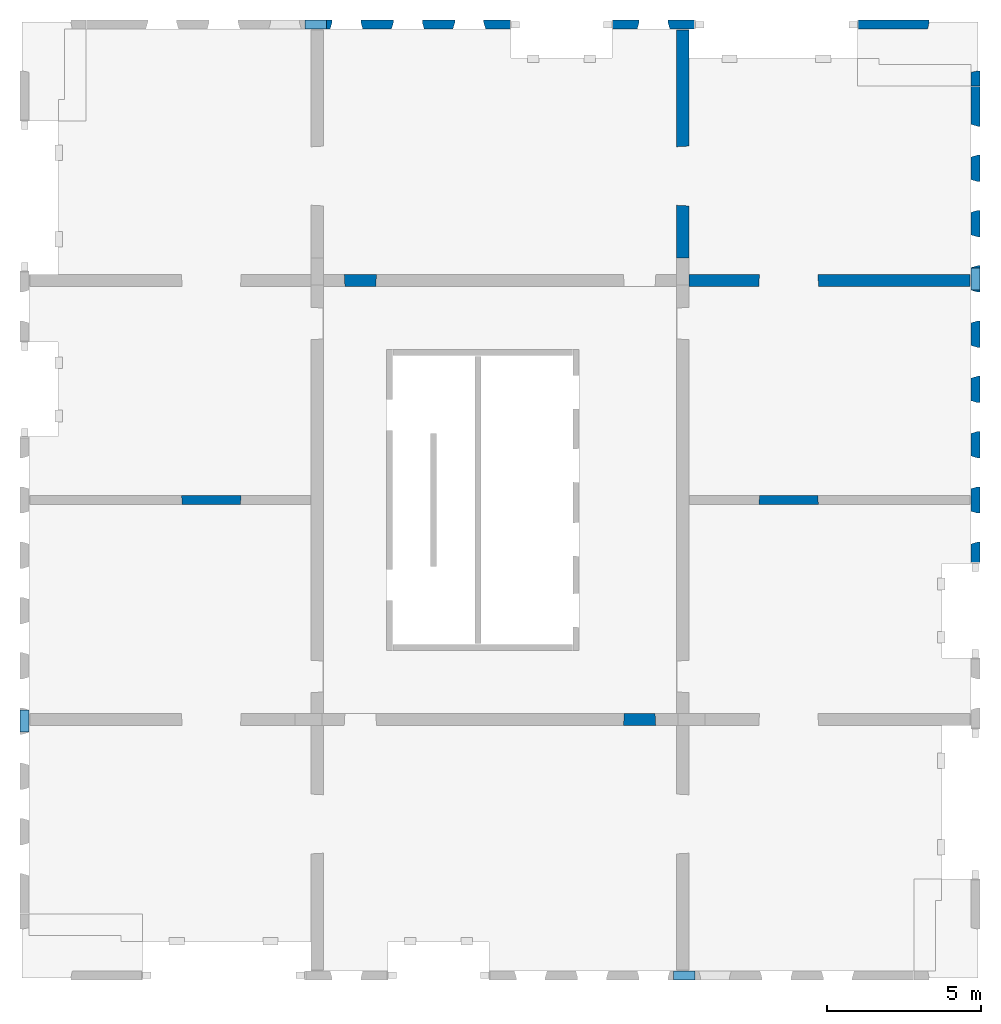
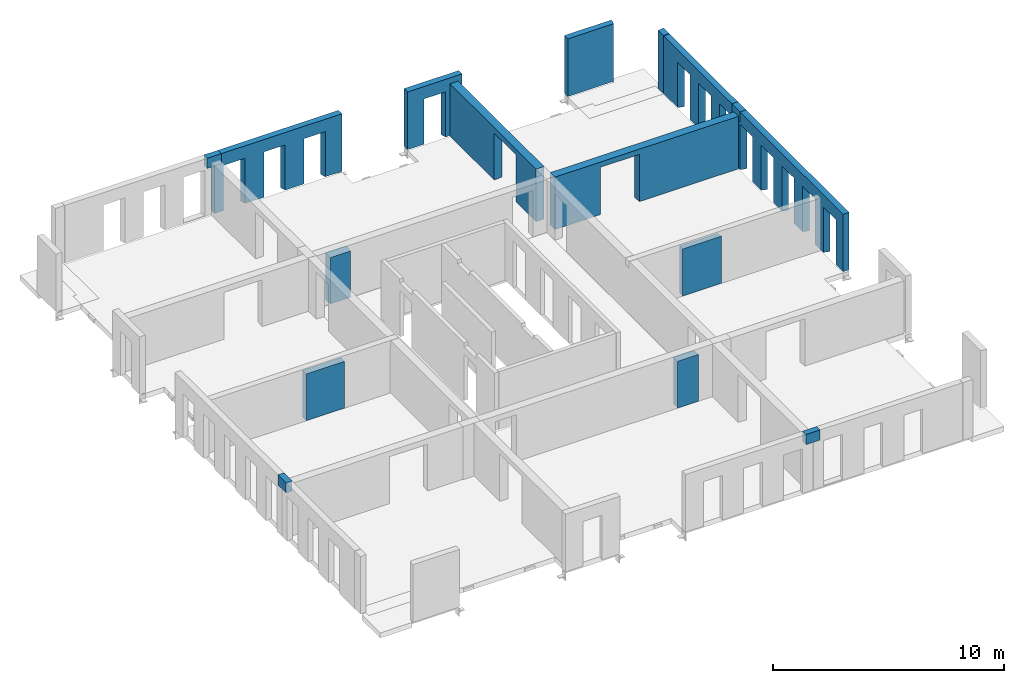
# One storey, part 4 of 4: 16 walls, 19 openings.
"""IFC2X3 building model written with IfcOpenShell, lengths in millimetres."""

from ifc_helpers import new_model, entity, si_unit, converted_unit, derived_unit, direction, frame, frame_2d, origin, place, context, subcontext, project, spatial, rectangle, extrude, faceted_brep, material, layer, layer_set, layer_usage, type_object, element, save


model = new_model("IFC2X3")

# Units and contexts
model_context = context("Model", 3, precision=0.01, world=origin(), true_north=direction((6.12303176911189e-17, 1.0)))
body_context = subcontext(model_context, "Body", "Model", "MODEL_VIEW")
ifc_project = project(units=[si_unit("LENGTHUNIT", "METRE", prefix="MILLI"), si_unit("AREAUNIT", "SQUARE_METRE"), si_unit("VOLUMEUNIT", "CUBIC_METRE"), converted_unit("PLANEANGLEUNIT", "DEGREE", entity("IfcRatioMeasure", 0.0174532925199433), si_unit("PLANEANGLEUNIT", "RADIAN"), dimensions=[0, 0, 0, 0, 0, 0, 0]), si_unit("MASSUNIT", "GRAM", prefix="KILO"), derived_unit("MASSDENSITYUNIT", [(si_unit("MASSUNIT", "GRAM", prefix="KILO"), 1), (si_unit("LENGTHUNIT", "METRE"), -3)]), si_unit("TIMEUNIT", "SECOND"), si_unit("FREQUENCYUNIT", "HERTZ"), si_unit("THERMODYNAMICTEMPERATUREUNIT", "DEGREE_CELSIUS"), derived_unit("THERMALTRANSMITTANCEUNIT", [(si_unit("MASSUNIT", "GRAM", prefix="KILO"), 1), (si_unit("THERMODYNAMICTEMPERATUREUNIT", "KELVIN"), -1), (si_unit("TIMEUNIT", "SECOND"), -3)]), derived_unit("VOLUMETRICFLOWRATEUNIT", [(si_unit("LENGTHUNIT", "METRE"), 3), (si_unit("TIMEUNIT", "SECOND"), -1)]), si_unit("ELECTRICCURRENTUNIT", "AMPERE"), si_unit("ELECTRICVOLTAGEUNIT", "VOLT"), si_unit("POWERUNIT", "WATT"), si_unit("FORCEUNIT", "NEWTON", prefix="KILO"), si_unit("ILLUMINANCEUNIT", "LUX"), si_unit("LUMINOUSFLUXUNIT", "LUMEN"), si_unit("LUMINOUSINTENSITYUNIT", "CANDELA"), derived_unit("USERDEFINED", [(si_unit("MASSUNIT", "GRAM", prefix="KILO"), -1), (si_unit("LENGTHUNIT", "METRE"), -2), (si_unit("TIMEUNIT", "SECOND"), 3), (si_unit("LUMINOUSFLUXUNIT", "LUMEN"), 1)]), derived_unit("LINEARVELOCITYUNIT", [(si_unit("LENGTHUNIT", "METRE"), 1), (si_unit("TIMEUNIT", "SECOND"), -1)]), si_unit("PRESSUREUNIT", "PASCAL"), derived_unit("USERDEFINED", [(si_unit("LENGTHUNIT", "METRE"), -2), (si_unit("MASSUNIT", "GRAM", prefix="KILO"), 1), (si_unit("TIMEUNIT", "SECOND"), -2)])], contexts=[model_context])

# Site, building, storey
site_placement = place(None, origin())
site = spatial("IfcSite", under=ifc_project, at=site_placement, Name="Default", CompositionType="ELEMENT")
building_placement = place(site_placement, origin())
building = spatial("IfcBuilding", under=site, at=building_placement, Name="niet gebruiken", CompositionType="ELEMENT")
storey_placement = place(building_placement, frame((0.0, 0.0, 76140.0)))
storey = spatial("IfcBuildingStorey", under=building, at=storey_placement, Name="24 vierentwintigste verdieping", CompositionType="ELEMENT", Elevation=76140.0000000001)

# Walls
ifc_material_1 = material(Name="NLRS_f2_beton ihwg")
ifc_layer_1 = layer(ifc_material_1, 300.0)
ifc_layer_set_1 = layer_set([ifc_layer_1], Name="Basic Wall:NLRS_21.21_WA_beton ihwg d=300_gen")
ifc_layer_usage_1 = layer_usage(ifc_layer_set_1, "AXIS2", "NEGATIVE", 150.0)
wall_type_1 = type_object("IfcWallType", Name="Basic Wall:NLRS_21.21_WA_beton ihwg d=300_gen", PredefinedType="STANDARD", material=ifc_layer_set_1)
wall_1_placement = place(storey_placement, frame((148105.0, 2020.0, 2455.0), z_axis=(0.0, 0.0, 1.0), x_axis=(-1.0, 0.0, 0.0)))
element("IfcWallStandardCase", 1, at=wall_1_placement, inside=storey, type_object=wall_type_1, material=ifc_layer_usage_1, Name="Basic Wall:NLRS_21.21_WA_beton ihwg d=300_gen", ObjectType="Basic Wall:NLRS_21.21_WA_beton ihwg d=300_gen", context=body_context, shape_type="SweptSolid", body=[
    extrude(rectangle(XDim=710.000000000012, YDim=300.0, at=frame_2d((355.000000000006, -1.4210854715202e-14), x_axis=(-1.0, 0.0))), origin(), (0.0, 0.0, 1.0), 535.0),
])
ifc_layer_usage_2 = layer_usage(ifc_layer_set_1, "AXIS2", "NEGATIVE", 150.0)
wall_2_placement = place(storey_placement, frame((135395.0, 32980.0, 2455.0)))
element("IfcWallStandardCase", 2, at=wall_2_placement, inside=storey, type_object=wall_type_1, material=ifc_layer_usage_2, Name="Basic Wall:NLRS_21.21_WA_beton ihwg d=300_gen", ObjectType="Basic Wall:NLRS_21.21_WA_beton ihwg d=300_gen", context=body_context, shape_type="SweptSolid", body=[
    extrude(rectangle(XDim=710.000000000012, YDim=300.000000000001, at=frame_2d((355.000000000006, 0.0), x_axis=(-1.0, 0.0))), origin(), (0.0, 0.0, 1.0), 535.0),
])
ifc_layer_usage_3 = layer_usage(ifc_layer_set_1, "AXIS2", "NEGATIVE", 150.0)
wall_3_placement = place(storey_placement, frame((157230.0, 25055.0, 2455.0), z_axis=(0.0, 0.0, 1.0), x_axis=(0.0, -1.0, 0.0)))
element("IfcWallStandardCase", 3, at=wall_3_placement, inside=storey, type_object=wall_type_1, material=ifc_layer_usage_3, Name="Basic Wall:NLRS_21.21_WA_beton ihwg d=300_gen", ObjectType="Basic Wall:NLRS_21.21_WA_beton ihwg d=300_gen", context=body_context, shape_type="SweptSolid", body=[
    extrude(rectangle(XDim=710.000000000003, YDim=300.000000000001, at=frame_2d((355.000000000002, 9.9475983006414e-13), x_axis=(-1.0, 0.0))), origin(), (0.0, 0.0, 1.0), 535.0),
])
ifc_layer_usage_4 = layer_usage(ifc_layer_set_1, "AXIS2", "NEGATIVE", 150.0)
wall_4_placement = place(storey_placement, frame((126270.0, 9945.0, 2455.0), z_axis=(0.0, 0.0, 1.0), x_axis=(0.0, 1.0, 0.0)))
element("IfcWallStandardCase", 4, at=wall_4_placement, inside=storey, type_object=wall_type_1, material=ifc_layer_usage_4, Name="Basic Wall:NLRS_21.21_WA_beton ihwg d=300_gen", ObjectType="Basic Wall:NLRS_21.21_WA_beton ihwg d=300_gen", context=body_context, shape_type="SweptSolid", body=[
    extrude(rectangle(XDim=710.000000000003, YDim=300.000000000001, at=frame_2d((355.000000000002, 0.0), x_axis=(-1.0, 0.0))), origin(), (0.0, 0.0, 1.0), 535.0),
])

# Wall, opening
ifc_material_2 = material(Name="NLRS_f2_beton prefab")
ifc_layer_2 = layer(ifc_material_2, 400.0)
ifc_layer_set_2 = layer_set([ifc_layer_2], Name="Basic Wall:NLRS_22.21_WA_beton prefab d=400_gen")
ifc_layer_usage_5 = layer_usage(ifc_layer_set_2, "AXIS2", "NEGATIVE", 200.0)
wall_type_2 = type_object("IfcWallType", Name="Basic Wall:NLRS_22.21_WA_beton prefab d=400_gen", PredefinedType="STANDARD", material=ifc_layer_set_2)
wall_5_placement = place(storey_placement, frame((157060.0, 24650.0, -70.0), z_axis=(0.0, 0.0, 1.0), x_axis=(-1.0, 0.0, 0.0)))
wall_5 = element("IfcWallStandardCase", 5, at=wall_5_placement, inside=storey, type_object=wall_type_2, material=ifc_layer_usage_5, Name="Basic Wall:NLRS_22.21_WA_beton prefab d=400_gen", ObjectType="Basic Wall:NLRS_22.21_WA_beton prefab d=400_gen", context=body_context, shape_type="SweptSolid", body=[
    extrude(rectangle(XDim=9160.00000000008, YDim=399.999999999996, at=frame_2d((4580.00000000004, -9.2370555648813e-13), x_axis=(-1.0, 0.0))), origin(), (0.0, 0.0, 1.0), 2770.00000000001),
])
opening_1_placement = place(wall_5_placement, frame((6884.0, 200.0, 0.0)))
element("IfcOpeningElement", 6, at=opening_1_placement, cuts=wall_5, Name="Basic Wall:NLRS_22.21_WA_beton prefab d=400_gen", ObjectType="Opening", context=body_context, shape_type="Brep", body=[
    faceted_brep([(-24.0, -400.0, 2470.0), (-1924.0, -400.0, 2470.0), (-1924.0, -400.0, 0.0), (-24.0, -400.0, 0.0), (0.0, 0.0, 2494.0), (0.0, 0.0, 0.0), (-1948.0, 0.0, 0.0), (-1948.0, 0.0, 2494.0)], [[[0, 1, 2, 3]], [[4, 5, 6, 7]], [[4, 7, 1, 0]], [[7, 6, 2, 1]], [[6, 5, 3, 2]], [[5, 4, 0, 3]]]),
])

ifc_layer_usage_6 = layer_usage(ifc_layer_set_2, "AXIS2", "NEGATIVE", 200.0)
wall_6_placement = place(storey_placement, frame((147700.0, 25380.0, -70.0), z_axis=(0.0, 0.0, 1.0), x_axis=(0.0, 1.0, 0.0)))
wall_6 = element("IfcWallStandardCase", 7, at=wall_6_placement, inside=storey, type_object=wall_type_2, material=ifc_layer_usage_6, Name="Basic Wall:NLRS_22.21_WA_beton prefab d=400_gen", ObjectType="Basic Wall:NLRS_22.21_WA_beton prefab d=400_gen", context=body_context, shape_type="SweptSolid", body=[
    extrude(rectangle(XDim=7429.99999999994, YDim=400.000000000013, at=frame_2d((3714.99999999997, 7.14805992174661e-12), x_axis=(-1.0, 0.0))), origin(), (0.0, 0.0, 1.0), 2770.00000000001),
])
opening_2_placement = place(wall_6_placement, frame((1696.0, 200.0, 0.0)))
element("IfcOpeningElement", 8, at=opening_2_placement, cuts=wall_6, Name="Basic Wall:NLRS_22.21_WA_beton prefab d=400_gen", ObjectType="Opening", context=body_context, shape_type="Brep", body=[
    faceted_brep([(1924.0, 0.0, 2470.0), (1924.0, 0.0, 0.0), (24.0, 0.0, 0.0), (24.0, 0.0, 2470.0), (1948.0, -400.0, 2494.0), (0.0, -400.0, 2494.0), (0.0, -400.0, 0.0), (1948.0, -400.0, 0.0)], [[[0, 1, 2, 3]], [[4, 5, 6, 7]], [[4, 0, 3, 5]], [[5, 3, 2, 6]], [[6, 2, 1, 7]], [[7, 1, 0, 4]]]),
])

ifc_layer_3 = layer(ifc_material_2, 300.0)
ifc_layer_set_3 = layer_set([ifc_layer_3], Name="Basic Wall:NLRS_21.21_WA_beton prefab d=300/320_gen")
ifc_layer_usage_7 = layer_usage(ifc_layer_set_3, "AXIS2", "NEGATIVE", 150.0)
wall_type_3 = type_object("IfcWallType", Name="Basic Wall:NLRS_21.21_WA_beton prefab d=300/320_gen", PredefinedType="STANDARD", material=ifc_layer_set_3)
wall_7_placement = place(storey_placement, frame((145390.0, 32980.0, -50.0)))
wall_7 = element("IfcWallStandardCase", 9, at=wall_7_placement, inside=storey, type_object=wall_type_3, material=ifc_layer_usage_7, Name="Basic Wall:NLRS_21.21_WA_beton prefab d=300/320_gen", ObjectType="Basic Wall:NLRS_21.21_WA_beton prefab d=300/320_gen", context=body_context, shape_type="SweptSolid", body=[
    extrude(rectangle(XDim=2720.00000000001, YDim=300.000000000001, at=frame_2d((1360.0, -4.54747350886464e-13), x_axis=(-1.0, 0.0))), origin(), (0.0, 0.0, 1.0), 3040.0),
])
opening_3_placement = place(wall_7_placement, frame((825.0, -150.0, -20.0)))
element("IfcOpeningElement", 10, at=opening_3_placement, cuts=wall_7, Name="Basic Wall:NLRS_21.21_WA_beton prefab d=300/320_gen", ObjectType="Opening", context=body_context, shape_type="Brep", body=[
    faceted_brep([(0.0, 0.0, 2405.0), (0.0, 0.0, 0.0), (1070.0, 0.0, 0.0), (1070.0, 0.0, 2405.0), (1005.0, 219.0, 2370.0), (65.0, 219.0, 2370.0), (1005.0, 219.0, 0.0), (65.0, 219.0, 0.0), (65.0, 300.0, 0.0), (1005.0, 300.0, 0.0), (65.0, 300.0, 2370.0), (1005.0, 300.0, 2370.0)], [[[0, 1, 2, 3]], [[3, 4, 5, 0]], [[2, 6, 4, 3]], [[1, 7, 8, 9, 6, 2]], [[0, 5, 7, 1]], [[10, 11, 9, 8]], [[10, 5, 4, 11]], [[11, 4, 6, 9]], [[8, 7, 5, 10]]]),
])

# Wall, openings
ifc_layer_usage_8 = layer_usage(ifc_layer_set_3, "AXIS2", "NEGATIVE", 150.0)
wall_8_placement = place(storey_placement, frame((157230.0, 30960.0, -50.0), z_axis=(0.0, 0.0, 1.0), x_axis=(0.0, -1.0, 0.0)))
wall_8 = element("IfcWallStandardCase", 11, at=wall_8_placement, inside=storey, type_object=wall_type_3, material=ifc_layer_usage_8, Name="Basic Wall:NLRS_21.21_WA_beton prefab d=300/320_gen", ObjectType="Basic Wall:NLRS_21.21_WA_beton prefab d=300/320_gen", context=body_context, shape_type="SweptSolid", body=[
    extrude(rectangle(XDim=6249.99999999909, YDim=300.000000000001, at=frame_2d((3124.99999999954, -8.61177795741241e-12), x_axis=(-1.0, 0.0))), origin(), (0.0, 0.0, 1.0), 3039.99999999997),
])
opening_4_placement = place(wall_8_placement, frame((2295.0, -150.0, -20.0)))
element("IfcOpeningElement", 12, at=opening_4_placement, cuts=wall_8, Name="Basic Wall:NLRS_21.21_WA_beton prefab d=300/320_gen", ObjectType="Opening", context=body_context, shape_type="Brep", body=[
    faceted_brep([(-1070.0, 0.0, 2405.0), (-1070.0, 0.0, 0.0), (0.0, 0.0, 0.0), (0.0, 0.0, 2405.0), (-65.0, 219.0, 2370.0), (-1005.0, 219.0, 2370.0), (-65.0, 219.0, 0.0), (-1005.0, 219.0, 0.0), (-1005.0, 300.0, 0.0), (-65.0, 300.0, 0.0), (-1005.0, 300.0, 2370.0), (-65.0, 300.0, 2370.0)], [[[0, 1, 2, 3]], [[3, 4, 5, 0]], [[2, 6, 4, 3]], [[1, 7, 8, 9, 6, 2]], [[0, 5, 7, 1]], [[10, 11, 9, 8]], [[10, 5, 4, 11]], [[11, 4, 6, 9]], [[8, 7, 5, 10]]]),
])
opening_5_placement = place(wall_8_placement, frame((4095.0, -150.0, -20.0)))
element("IfcOpeningElement", 13, at=opening_5_placement, cuts=wall_8, Name="Basic Wall:NLRS_21.21_WA_beton prefab d=300/320_gen", ObjectType="Opening", context=body_context, shape_type="Brep", body=[
    faceted_brep([(-1070.0, 0.0, 2405.0), (-1070.0, 0.0, 0.0), (0.0, 0.0, 0.0), (0.0, 0.0, 2405.0), (-65.0, 219.0, 2370.0), (-1005.0, 219.0, 2370.0), (-65.0, 219.0, 0.0), (-1005.0, 219.0, 0.0), (-1005.0, 300.0, 0.0), (-65.0, 300.0, 0.0), (-1005.0, 300.0, 2370.0), (-65.0, 300.0, 2370.0)], [[[0, 1, 2, 3]], [[3, 4, 5, 0]], [[2, 6, 4, 3]], [[1, 7, 8, 9, 6, 2]], [[0, 5, 7, 1]], [[10, 11, 9, 8]], [[10, 5, 4, 11]], [[11, 4, 6, 9]], [[8, 7, 5, 10]]]),
])
opening_6_placement = place(wall_8_placement, frame((5895.0, -150.0, -20.0)))
element("IfcOpeningElement", 14, at=opening_6_placement, cuts=wall_8, Name="Basic Wall:NLRS_21.21_WA_beton prefab d=300/320_gen", ObjectType="Opening", context=body_context, shape_type="Brep", body=[
    faceted_brep([(-1070.0, 0.0, 2405.0), (-1070.0, 0.0, 0.0), (0.0, 0.0, 0.0), (0.0, 0.0, 2405.0), (-65.0, 219.0, 2370.0), (-1005.0, 219.0, 2370.0), (-65.0, 219.0, 0.0), (-1005.0, 219.0, 0.0), (-1005.0, 300.0, 0.0), (-65.0, 300.0, 0.0), (-1005.0, 300.0, 2370.0), (-65.0, 300.0, 2370.0)], [[[0, 1, 2, 3]], [[3, 4, 5, 0]], [[2, 6, 4, 3]], [[1, 7, 8, 9, 6, 2]], [[0, 5, 7, 1]], [[10, 11, 9, 8]], [[10, 5, 4, 11]], [[11, 4, 6, 9]], [[8, 7, 5, 10]]]),
])
opening_7_placement = place(wall_8_placement, origin())
element("IfcOpeningElement", 15, at=opening_7_placement, cuts=wall_8, Name="Basic Wall:NLRS_21.21_WA_beton prefab d=300/320_gen", ObjectType="Opening", context=body_context, shape_type="SweptSolid", body=[
    extrude(rectangle(XDim=534.99999999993, YDim=344.999999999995, at=frame_2d((0.0, -2.17426077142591e-12), x_axis=(1.0, 0.0))), frame((6077.49999999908, 150.0, 2772.5), z_axis=(0.0, -1.0, 0.0), x_axis=(0.0, 0.0, 1.0)), (0.0, 0.0, 1.0), 300.0),
])

# Wall, opening
ifc_layer_usage_9 = layer_usage(ifc_layer_set_3, "AXIS2", "NEGATIVE", 150.0)
wall_9_placement = place(storey_placement, frame((153390.0, 32980.0, -50.0)))
wall_9 = element("IfcWallStandardCase", 16, at=wall_9_placement, inside=storey, type_object=wall_type_3, material=ifc_layer_usage_9, Name="Basic Wall:NLRS_21.21_WA_beton prefab d=300/320_gen", ObjectType="Basic Wall:NLRS_21.21_WA_beton prefab d=300/320_gen", context=body_context, shape_type="SweptSolid", body=[
    extrude(rectangle(XDim=2330.00000000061, YDim=300.000000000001, at=frame_2d((1165.00000000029, -1.29318777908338e-12), x_axis=(-1.0, 0.0))), origin(), (0.0, 0.0, 1.0), 3040.0),
])
opening_8_placement = place(wall_9_placement, frame((2265.0, -250.0, 0.0)))
element("IfcOpeningElement", 17, at=opening_8_placement, cuts=wall_9, Name="Basic Wall:NLRS_21.21_WA_beton prefab d=300/320_gen", ObjectType="Opening", context=body_context, shape_type="Brep", body=[
    faceted_brep([(65.0, 0.0, 3040.0), (65.0, 319.0, 3040.0), (0.0, 0.0, 3040.0), (65.0, 0.0, 0.0), (0.0, 0.0, 0.0), (65.0, 319.0, 0.0)], [[[0, 1, 2]], [[3, 4, 5]], [[2, 4, 3, 0]], [[0, 3, 5, 1]], [[1, 5, 4, 2]]]),
])

ifc_layer_usage_10 = layer_usage(ifc_layer_set_3, "AXIS2", "NEGATIVE", 150.0)
wall_10_placement = place(storey_placement, frame((157230.0, 31470.0, -50.0), z_axis=(0.0, 0.0, 1.0), x_axis=(0.0, -1.0, 0.0)))
wall_10 = element("IfcWallStandardCase", 18, at=wall_10_placement, inside=storey, type_object=wall_type_3, material=ifc_layer_usage_10, Name="Basic Wall:NLRS_21.21_WA_beton prefab d=300/320_gen", ObjectType="Basic Wall:NLRS_21.21_WA_beton prefab d=300/320_gen", context=body_context, shape_type="SweptSolid", body=[
    extrude(rectangle(XDim=489.999999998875, YDim=300.000000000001, at=frame_2d((244.999999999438, -7.8159700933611e-13), x_axis=(-1.0, 0.0))), origin(), (0.0, 0.0, 1.0), 3040.0),
])
opening_9_placement = place(wall_10_placement, frame((65.0, -250.0, 0.0)))
element("IfcOpeningElement", 19, at=opening_9_placement, cuts=wall_10, Name="Basic Wall:NLRS_21.21_WA_beton prefab d=300/320_gen", ObjectType="Opening", context=body_context, shape_type="Brep", body=[
    faceted_brep([(-65.0, 0.0, 3040.0), (0.0, 0.0, 3040.0), (-65.0, 319.0, 3040.0), (-65.0, 0.0, 0.0), (-65.0, 319.0, 0.0), (0.0, 0.0, 0.0)], [[[0, 1, 2]], [[3, 4, 5]], [[1, 0, 3, 5]], [[0, 2, 4, 3]], [[2, 1, 5, 4]]]),
])

# Wall, openings
ifc_layer_usage_11 = layer_usage(ifc_layer_set_3, "AXIS2", "NEGATIVE", 150.0)
wall_11_placement = place(storey_placement, frame((157230.0, 24690.0, -50.0), z_axis=(0.0, 0.0, 1.0), x_axis=(0.0, -1.0, 0.0)))
wall_11 = element("IfcWallStandardCase", 20, at=wall_11_placement, inside=storey, type_object=wall_type_3, material=ifc_layer_usage_11, Name="Basic Wall:NLRS_21.21_WA_beton prefab d=300/320_gen", ObjectType="Basic Wall:NLRS_21.21_WA_beton prefab d=300/320_gen", context=body_context, shape_type="SweptSolid", body=[
    extrude(rectangle(XDim=9250.00000000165, YDim=300.000000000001, at=frame_2d((4625.00000000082, -4.43378667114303e-12), x_axis=(-1.0, 0.0))), origin(), (0.0, 0.0, 1.0), 3040.0),
])
opening_10_placement = place(wall_11_placement, frame((8625.0, -150.0, -20.0)))
element("IfcOpeningElement", 21, at=opening_10_placement, cuts=wall_11, Name="Basic Wall:NLRS_21.21_WA_beton prefab d=300/320_gen", ObjectType="Opening", context=body_context, shape_type="Brep", body=[
    faceted_brep([(-1070.0, 0.0, 2405.0), (-1070.0, 0.0, 0.0), (0.0, 0.0, 0.0), (0.0, 0.0, 2405.0), (-65.0, 219.0, 2370.0), (-1005.0, 219.0, 2370.0), (-65.0, 219.0, 0.0), (-1005.0, 219.0, 0.0), (-1005.0, 300.0, 0.0), (-65.0, 300.0, 0.0), (-1005.0, 300.0, 2370.0), (-65.0, 300.0, 2370.0)], [[[0, 1, 2, 3]], [[3, 4, 5, 0]], [[2, 6, 4, 3]], [[1, 7, 8, 9, 6, 2]], [[0, 5, 7, 1]], [[10, 11, 9, 8]], [[10, 5, 4, 11]], [[11, 4, 6, 9]], [[8, 7, 5, 10]]]),
])
opening_11_placement = place(wall_11_placement, frame((5025.0, -150.0, -20.0)))
element("IfcOpeningElement", 22, at=opening_11_placement, cuts=wall_11, Name="Basic Wall:NLRS_21.21_WA_beton prefab d=300/320_gen", ObjectType="Opening", context=body_context, shape_type="Brep", body=[
    faceted_brep([(-1070.0, 0.0, 2405.0), (-1070.0, 0.0, 0.0), (0.0, 0.0, 0.0), (0.0, 0.0, 2405.0), (-65.0, 219.0, 2370.0), (-1005.0, 219.0, 2370.0), (-65.0, 219.0, 0.0), (-1005.0, 219.0, 0.0), (-1005.0, 300.0, 0.0), (-65.0, 300.0, 0.0), (-1005.0, 300.0, 2370.0), (-65.0, 300.0, 2370.0)], [[[0, 1, 2, 3]], [[3, 4, 5, 0]], [[2, 6, 4, 3]], [[1, 7, 8, 9, 6, 2]], [[0, 5, 7, 1]], [[10, 11, 9, 8]], [[10, 5, 4, 11]], [[11, 4, 6, 9]], [[8, 7, 5, 10]]]),
])
opening_12_placement = place(wall_11_placement, frame((3225.0, -150.0, -20.0)))
element("IfcOpeningElement", 23, at=opening_12_placement, cuts=wall_11, Name="Basic Wall:NLRS_21.21_WA_beton prefab d=300/320_gen", ObjectType="Opening", context=body_context, shape_type="Brep", body=[
    faceted_brep([(-1070.0, 0.0, 2405.0), (-1070.0, 0.0, 0.0), (0.0, 0.0, 0.0), (0.0, 0.0, 2405.0), (-65.0, 219.0, 2370.0), (-1005.0, 219.0, 2370.0), (-65.0, 219.0, 0.0), (-1005.0, 219.0, 0.0), (-1005.0, 300.0, 0.0), (-65.0, 300.0, 0.0), (-1005.0, 300.0, 2370.0), (-65.0, 300.0, 2370.0)], [[[0, 1, 2, 3]], [[3, 4, 5, 0]], [[2, 6, 4, 3]], [[1, 7, 8, 9, 6, 2]], [[0, 5, 7, 1]], [[10, 11, 9, 8]], [[10, 5, 4, 11]], [[11, 4, 6, 9]], [[8, 7, 5, 10]]]),
])
opening_13_placement = place(wall_11_placement, frame((6825.0, -150.0, -20.0)))
element("IfcOpeningElement", 24, at=opening_13_placement, cuts=wall_11, Name="Basic Wall:NLRS_21.21_WA_beton prefab d=300/320_gen", ObjectType="Opening", context=body_context, shape_type="Brep", body=[
    faceted_brep([(-1070.0, 0.0, 2405.0), (-1070.0, 0.0, 0.0), (0.0, 0.0, 0.0), (0.0, 0.0, 2405.0), (-65.0, 219.0, 2370.0), (-1005.0, 219.0, 2370.0), (-65.0, 219.0, 0.0), (-1005.0, 219.0, 0.0), (-1005.0, 300.0, 0.0), (-65.0, 300.0, 0.0), (-1005.0, 300.0, 2370.0), (-65.0, 300.0, 2370.0)], [[[0, 1, 2, 3]], [[3, 4, 5, 0]], [[2, 6, 4, 3]], [[1, 7, 8, 9, 6, 2]], [[0, 5, 7, 1]], [[10, 11, 9, 8]], [[10, 5, 4, 11]], [[11, 4, 6, 9]], [[8, 7, 5, 10]]]),
])
opening_14_placement = place(wall_11_placement, frame((1425.0, -150.0, -20.0)))
element("IfcOpeningElement", 25, at=opening_14_placement, cuts=wall_11, Name="Basic Wall:NLRS_21.21_WA_beton prefab d=300/320_gen", ObjectType="Opening", context=body_context, shape_type="Brep", body=[
    faceted_brep([(0.0, 0.0, 2405.0), (-1070.0, 0.0, 2405.0), (-1070.0, 0.0, 0.0), (0.0, 0.0, 0.0), (-65.0, 219.0, 2370.0), (-1005.0, 219.0, 2370.0), (-1005.0, 219.0, 0.0), (-1005.0, 300.0, 0.0), (-65.0, 300.0, 0.0), (-65.0, 219.0, 0.0), (-65.0, 300.0, 2370.0), (-1005.0, 300.0, 2370.0)], [[[0, 1, 2, 3]], [[1, 0, 4, 5]], [[2, 1, 5, 6]], [[3, 2, 6, 7, 8, 9]], [[0, 3, 9, 4]], [[10, 8, 7, 11]], [[10, 11, 5, 4]], [[11, 7, 6, 5]], [[8, 10, 4, 9]]]),
])
opening_15_placement = place(wall_11_placement, origin())
element("IfcOpeningElement", 26, at=opening_15_placement, cuts=wall_11, Name="Basic Wall:NLRS_21.21_WA_beton prefab d=300/320_gen", ObjectType="Opening", context=body_context, shape_type="SweptSolid", body=[
    extrude(rectangle(XDim=534.999999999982, YDim=345.000000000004, at=frame_2d((-2.1600499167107e-12, -8.66862137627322e-12), x_axis=(0.0, 1.0))), frame((172.5, 150.0, 2772.5), z_axis=(0.0, -1.0, 0.0), x_axis=(-1.0, 0.0, 0.0)), (0.0, 0.0, 1.0), 300.0),
])

ifc_layer_usage_12 = layer_usage(ifc_layer_set_3, "AXIS2", "NEGATIVE", 150.0)
wall_12_placement = place(storey_placement, frame((135760.0, 32980.0, -50.0)))
wall_12 = element("IfcWallStandardCase", 27, at=wall_12_placement, inside=storey, type_object=wall_type_3, material=ifc_layer_usage_12, Name="Basic Wall:NLRS_21.21_WA_beton prefab d=300/320_gen", ObjectType="Basic Wall:NLRS_21.21_WA_beton prefab d=300/320_gen", context=body_context, shape_type="SweptSolid", body=[
    extrude(rectangle(XDim=6350.00000000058, YDim=300.000000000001, at=frame_2d((3175.00000000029, 0.0), x_axis=(-1.0, 0.0))), origin(), (0.0, 0.0, 1.0), 3039.99999999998),
])
opening_16_placement = place(wall_12_placement, frame((455.0, -150.0, -20.0)))
element("IfcOpeningElement", 28, at=opening_16_placement, cuts=wall_12, Name="Basic Wall:NLRS_21.21_WA_beton prefab d=300/320_gen", ObjectType="Opening", context=body_context, shape_type="Brep", body=[
    faceted_brep([(1070.0, 0.0, 2405.0), (0.0, 0.0, 2405.0), (0.0, 0.0, 0.0), (1070.0, 0.0, 0.0), (1005.0, 219.0, 2370.0), (65.0, 219.0, 2370.0), (65.0, 219.0, 0.0), (65.0, 300.0, 0.0), (1005.0, 300.0, 0.0), (1005.0, 219.0, 0.0), (1005.0, 300.0, 2370.0), (65.0, 300.0, 2370.0)], [[[0, 1, 2, 3]], [[1, 0, 4, 5]], [[2, 1, 5, 6]], [[3, 2, 6, 7, 8, 9]], [[0, 3, 9, 4]], [[10, 8, 7, 11]], [[10, 11, 5, 4]], [[11, 7, 6, 5]], [[8, 10, 4, 9]]]),
])
opening_17_placement = place(wall_12_placement, frame((2455.0, -150.0, -20.0)))
element("IfcOpeningElement", 29, at=opening_17_placement, cuts=wall_12, Name="Basic Wall:NLRS_21.21_WA_beton prefab d=300/320_gen", ObjectType="Opening", context=body_context, shape_type="Brep", body=[
    faceted_brep([(1070.0, 0.0, 2405.0), (0.0, 0.0, 2405.0), (0.0, 0.0, 0.0), (1070.0, 0.0, 0.0), (1005.0, 219.0, 2370.0), (65.0, 219.0, 2370.0), (65.0, 219.0, 0.0), (65.0, 300.0, 0.0), (1005.0, 300.0, 0.0), (1005.0, 219.0, 0.0), (1005.0, 300.0, 2370.0), (65.0, 300.0, 2370.0)], [[[0, 1, 2, 3]], [[1, 0, 4, 5]], [[2, 1, 5, 6]], [[3, 2, 6, 7, 8, 9]], [[0, 3, 9, 4]], [[10, 8, 7, 11]], [[10, 11, 5, 4]], [[11, 7, 6, 5]], [[8, 10, 4, 9]]]),
])
opening_18_placement = place(wall_12_placement, frame((4455.0, -150.0, -20.0)))
element("IfcOpeningElement", 30, at=opening_18_placement, cuts=wall_12, Name="Basic Wall:NLRS_21.21_WA_beton prefab d=300/320_gen", ObjectType="Opening", context=body_context, shape_type="Brep", body=[
    faceted_brep([(1070.0, 0.0, 2405.0), (0.0, 0.0, 2405.0), (0.0, 0.0, 0.0), (1070.0, 0.0, 0.0), (1005.0, 219.0, 2370.0), (65.0, 219.0, 2370.0), (65.0, 219.0, 0.0), (65.0, 300.0, 0.0), (1005.0, 300.0, 0.0), (1005.0, 219.0, 0.0), (1005.0, 300.0, 2370.0), (65.0, 300.0, 2370.0)], [[[0, 1, 2, 3]], [[1, 0, 4, 5]], [[2, 1, 5, 6]], [[3, 2, 6, 7, 8, 9]], [[0, 3, 9, 4]], [[10, 8, 7, 11]], [[10, 11, 5, 4]], [[11, 7, 6, 5]], [[8, 10, 4, 9]]]),
])
opening_19_placement = place(wall_12_placement, origin())
element("IfcOpeningElement", 31, at=opening_19_placement, cuts=wall_12, Name="Basic Wall:NLRS_21.21_WA_beton prefab d=300/320_gen", ObjectType="Opening", context=body_context, shape_type="SweptSolid", body=[
    extrude(rectangle(XDim=534.999999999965, YDim=345.000000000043, at=frame_2d((0.0, 0.0), x_axis=(0.0, 1.0))), frame((172.500000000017, 150.0, 2772.5), z_axis=(0.0, -1.0, 0.0), x_axis=(-1.0, 0.0, 0.0)), (0.0, 0.0, 1.0), 300.0),
])

# Walls
ifc_material_3 = material(Name="NLRS_f2_beton prefab dichtstorten")
wall_type_4 = type_object("IfcWallType", Name="Parametric Wall:NLRS_22.21_WA_beton prefab d=500 1900x2470_gen", PredefinedType="NOTDEFINED", material=ifc_material_3)
wall_13_placement = place(storey_placement, frame((131382.0, 17350.0, -70.0)))
element("IfcWall", 32, at=wall_13_placement, inside=storey, type_object=wall_type_4, material=ifc_material_3, Name="Parametric Wall:NLRS_22.21_WA_beton prefab d=500 1900x2470_gen", ObjectType="Parametric Wall:NLRS_22.21_WA_beton prefab d=500 1900x2470_gen", context=body_context, shape_type="Brep", body=[
    faceted_brep([(1936.0, 300.0, 2488.0), (1936.0, 300.0, 0.0), (0.0, 300.0, 0.0), (0.0, 300.0, 2488.0), (1918.0, 0.0, 2470.0), (18.0, 0.0, 2470.0), (18.0, 0.0, 0.0), (1918.0, 0.0, 0.0)], [[[0, 1, 2, 3]], [[4, 5, 6, 7]], [[4, 7, 1, 0]], [[7, 6, 2, 1]], [[6, 5, 3, 2]], [[5, 4, 0, 3]]]),
])
wall_14_placement = place(storey_placement, frame((150182.0, 17350.0, -70.0)))
element("IfcWall", 33, at=wall_14_placement, inside=storey, type_object=wall_type_4, material=ifc_material_3, Name="Parametric Wall:NLRS_22.21_WA_beton prefab d=500 1900x2470_gen", ObjectType="Parametric Wall:NLRS_22.21_WA_beton prefab d=500 1900x2470_gen", context=body_context, shape_type="Brep", body=[
    faceted_brep([(0.0, 0.0, 2488.0), (0.0, 0.0, 0.0), (1936.0, 0.0, 0.0), (1936.0, 0.0, 2488.0), (18.0, 300.0, 2470.0), (1918.0, 300.0, 2470.0), (1918.0, 300.0, 0.0), (18.0, 300.0, 0.0)], [[[0, 1, 2, 3]], [[4, 5, 6, 7]], [[4, 7, 1, 0]], [[7, 6, 2, 1]], [[6, 5, 3, 2]], [[5, 4, 0, 3]]]),
])
wall_type_5 = type_object("IfcWallType", Name="Parametric Wall:NLRS_22.21_WA_beton prefab d=500 1006x2448_gen", PredefinedType="NOTDEFINED", material=ifc_material_3)
wall_15_placement = place(storey_placement, frame((145770.0, 10150.0, -70.0)))
element("IfcWall", 34, at=wall_15_placement, inside=storey, type_object=wall_type_5, material=ifc_material_3, Name="Parametric Wall:NLRS_22.21_WA_beton prefab d=500 1006x2448_gen", ObjectType="Parametric Wall:NLRS_22.21_WA_beton prefab d=500 1006x2448_gen", context=body_context, shape_type="Brep", body=[
    faceted_brep([(0.0, 0.0, 2472.0), (0.0, 0.0, 0.0), (1054.0, 0.0, 0.0), (1054.0, 0.0, 2472.0), (24.0, 400.0, 2448.0), (1030.0, 400.0, 2448.0), (1030.0, 400.0, 0.0), (24.0, 400.0, 0.0)], [[[0, 1, 2, 3]], [[4, 5, 6, 7]], [[4, 7, 1, 0]], [[7, 6, 2, 1]], [[6, 5, 3, 2]], [[5, 4, 0, 3]]]),
])
wall_16_placement = place(storey_placement, frame((136676.0, 24450.0, -70.0)))
element("IfcWall", 35, at=wall_16_placement, inside=storey, type_object=wall_type_5, material=ifc_material_3, Name="Parametric Wall:NLRS_22.21_WA_beton prefab d=500 1006x2448_gen", ObjectType="Parametric Wall:NLRS_22.21_WA_beton prefab d=500 1006x2448_gen", context=body_context, shape_type="Brep", body=[
    faceted_brep([(1054.0, 400.0, 2472.0), (1054.0, 400.0, 0.0), (0.0, 400.0, 0.0), (0.0, 400.0, 2472.0), (1030.0, 0.0, 2448.0), (24.0, 0.0, 2448.0), (24.0, 0.0, 0.0), (1030.0, 0.0, 0.0)], [[[0, 1, 2, 3]], [[4, 5, 6, 7]], [[4, 7, 1, 0]], [[7, 6, 2, 1]], [[6, 5, 3, 2]], [[5, 4, 0, 3]]]),
])

save(model, "model.ifc")
